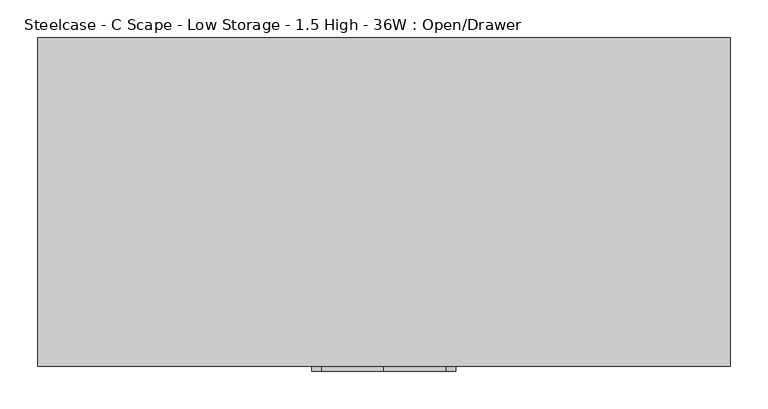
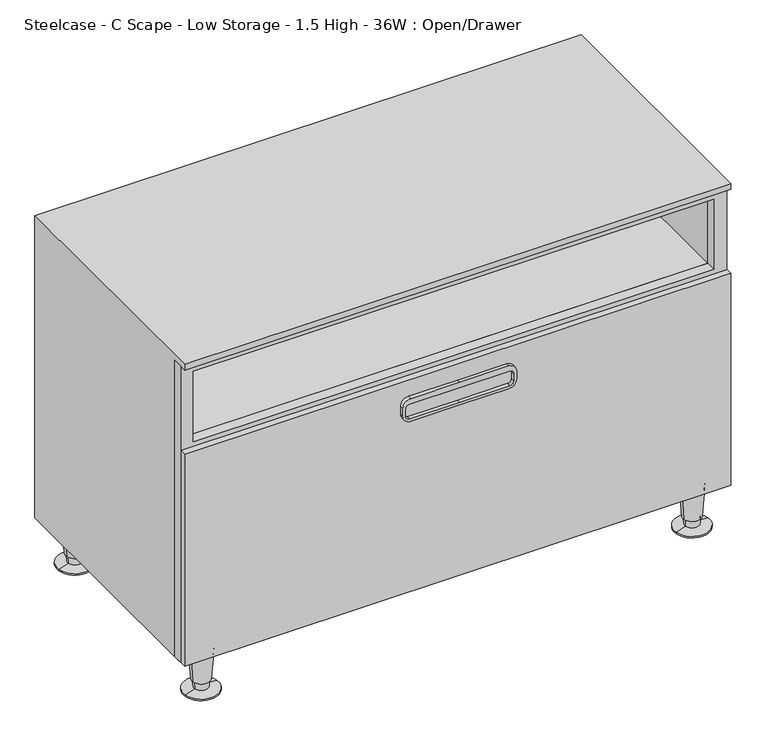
"""IFC4 building model written with IfcOpenShell, lengths in millimetres: furniture geometry, Steelcase - C Scape - Low Storage - 1.5 High - 36W : Open/Drawer."""

from ifc_helpers import new_model, si_unit, point, frame, frame_2d, origin, place, context, project, spatial, polyline, circle_curve, trimmed, segment, composite_curve, outline, extrude, faceted_brep, source, transform, mapped, element, save
from ifc_brep_helpers import plane_surface, cylinder_surface, revolved_surface, advanced_brep


def steelcase_c_scape_low_storage_1_5_high_36w_open_drawer_2eba1b3b(model_context):
    return source(origin(), model_context, "Body", "SolidModel", [
        extrude(outline(polyline([(76.2, 0.0), (76.2, 913.13), (599.44, 913.13), (599.44, 0.0), (76.2, 0.0)]), holes=[polyline([(458.7875121, 891.1617285), (458.7875121, 21.3382324), (582.93, 21.3382324), (582.93, 891.1617285), (458.7875121, 891.1617285)]), polyline([(92.7100024, 891.1617285), (92.7100024, 21.3382324), (436.8419, 21.3382324), (436.8419, 891.1617285), (92.7100024, 891.1617285)])]), frame((0.0, -421.6443408, 0.0), z_axis=(0.0, 1.0, 0.0), x_axis=(0.0, 0.0, 1.0)), (0.0, 0.0, 1.0), 17.2762904),
        extrude(outline(composite_curve([segment(trimmed(circle_curve(frame_2d((409.5749879, 374.0147442)), 12.7), [point((422.2749879, 374.0147442))], [point((409.5749879, 361.3147442))], False, "CARTESIAN"), True, "CONTINUOUS"), segment(polyline([(409.5749879, 361.3147442), (394.970017, 361.3147442)]), True, "CONTINUOUS"), segment(trimmed(circle_curve(frame_2d((394.970017, 374.0147442)), 12.7), [point((394.970017, 361.3147442))], [point((382.270017, 374.0147442))], False, "CARTESIAN"), True, "CONTINUOUS"), segment(polyline([(382.270017, 374.0147442), (382.270017, 456.2475), (382.270017, 538.4802558)]), True, "CONTINUOUS"), segment(trimmed(circle_curve(frame_2d((394.970017, 538.4802558)), 12.7), [point((382.270017, 538.4802558))], [point((394.970017, 551.1802558))], False, "CARTESIAN"), True, "CONTINUOUS"), segment(polyline([(394.970017, 551.1802558), (409.5749879, 551.1802558)]), True, "CONTINUOUS"), segment(trimmed(circle_curve(frame_2d((409.5749879, 538.4802558)), 12.7), [point((409.5749879, 551.1802558))], [point((422.2749879, 538.4802558))], False, "CARTESIAN"), True, "CONTINUOUS"), segment(polyline([(422.2749879, 538.4802558), (422.2749879, 456.2475), (422.2749879, 374.0147442)]), True, "CONTINUOUS")], self_intersect=False), holes=[composite_curve([segment(trimmed(circle_curve(frame_2d((406.1460063, 372.4923565)), 6.35), [point((406.1460063, 366.1423565))], [point((412.4960063, 372.4923565))], True, "CARTESIAN"), True, "CONTINUOUS"), segment(polyline([(412.4960063, 372.4923565), (412.4960063, 456.2475), (412.4960063, 540.0026435)]), True, "CONTINUOUS"), segment(trimmed(circle_curve(frame_2d((406.1460063, 540.0026435)), 6.35), [point((412.4960063, 540.0026435))], [point((406.1460063, 546.3526435))], True, "CARTESIAN"), True, "CONTINUOUS"), segment(polyline([(406.1460063, 546.3526435), (393.4459942, 546.3526435)]), True, "CONTINUOUS"), segment(trimmed(circle_curve(frame_2d((393.4459942, 540.0026435)), 6.35), [point((393.4459942, 546.3526435))], [point((387.0959942, 540.0026435))], True, "CARTESIAN"), True, "CONTINUOUS"), segment(polyline([(387.0959942, 540.0026435), (387.0959942, 456.2475), (387.0959942, 372.4923565)]), True, "CONTINUOUS"), segment(trimmed(circle_curve(frame_2d((393.4459942, 372.4923565)), 6.35), [point((387.0959942, 372.4923565))], [point((393.4459942, 366.1423565))], True, "CARTESIAN"), True, "CONTINUOUS"), segment(polyline([(393.4459942, 366.1423565), (406.1460063, 366.1423565)]), True, "CONTINUOUS")], self_intersect=False)]), frame((0.0, -439.42, 0.0), z_axis=(0.0, 1.0, 0.0), x_axis=(0.0, 0.0, 1.0)), (0.0, 0.0, 1.0), 6.35),
        advanced_brep(
        [(885.8598695, -31.5218435, 76.2), (848.1981305, -37.2840847, 76.2), (867.029, -34.4029641, 76.2), (881.9095214, -32.1262463, 19.05), (852.1484786, -36.6796819, 19.05), (879.4799345, -32.4979728, 19.05), (854.5780655, -36.3079555, 19.05), (878.791165, -32.6033544, 5.7545598), (855.266835, -36.2025738, 5.7545598), (896.1400485, -29.9489775, 2.5119506), (837.9179515, -38.8569507, 2.5119506), (896.1400485, -29.9489775, 0.0), (837.9179515, -38.8569507, 0.0), (867.029, -34.4029641, 0.0)],
        [
            (0, 1, circle_curve(frame((867.029, -34.4029641, 76.2), z_axis=(0.0, 0.0, 1.0), x_axis=(0.0, -1.0, 0.0)), 19.05)),
            (1, 2),
            (2, 0),
            (1, 0, circle_curve(frame((867.029, -34.4029641, 76.2), z_axis=(0.0, 0.0, 1.0), x_axis=(0.0, -1.0, 0.0)), 19.05)),
            (3, 4, circle_curve(frame((867.029, -34.4029641, 19.05), z_axis=(0.0, 0.0, 1.0), x_axis=(0.0, -1.0, 0.0)), 15.0536827)),
            (4, 1),
            (0, 3),
            (4, 3, circle_curve(frame((867.029, -34.4029641, 19.05), z_axis=(0.0, 0.0, 1.0), x_axis=(0.0, -1.0, 0.0)), 15.0536827)),
            (5, 6, circle_curve(frame((867.029, -34.4029641, 19.05), z_axis=(0.0, 0.0, 1.0), x_axis=(0.0, -1.0, 0.0)), 12.5958232)),
            (6, 4),
            (3, 5),
            (6, 5, circle_curve(frame((867.029, -34.4029641, 19.05), z_axis=(0.0, 0.0, 1.0), x_axis=(0.0, -1.0, 0.0)), 12.5958232)),
            (7, 8, circle_curve(frame((867.029, -34.4029641, 5.7545598), z_axis=(0.0, 0.0, 1.0), x_axis=(0.0, -1.0, 0.0)), 11.8990387)),
            (8, 6),
            (5, 7),
            (8, 7, circle_curve(frame((867.029, -34.4029641, 5.7545598), z_axis=(0.0, 0.0, 1.0), x_axis=(0.0, -1.0, 0.0)), 11.8990387)),
            (9, 10, circle_curve(frame((867.029, -34.4029641, 2.5119506), z_axis=(0.0, 0.0, 1.0), x_axis=(0.0, -1.0, 0.0)), 29.4498071)),
            (10, 8),
            (7, 9),
            (10, 9, circle_curve(frame((867.029, -34.4029641, 2.5119506), z_axis=(0.0, 0.0, 1.0), x_axis=(0.0, -1.0, 0.0)), 29.4498071)),
            (11, 12, circle_curve(frame((867.029, -34.4029641, 0.0), z_axis=(0.0, 0.0, 1.0), x_axis=(0.0, -1.0, 0.0)), 29.4498071)),
            (12, 10),
            (9, 11),
            (12, 11, circle_curve(frame((867.029, -34.4029641, 0.0), z_axis=(0.0, 0.0, 1.0), x_axis=(0.0, -1.0, 0.0)), 29.4498071)),
            (13, 12),
            (11, 13),
        ],
        [
            plane_surface(frame((867.029, -34.4029641, 76.2), z_axis=(0.0, 0.0, 1.0), x_axis=(0.0, -1.0, 0.0))),
            revolved_surface(polyline([(867.029, -53.4529641, 76.2), (867.029, -49.4566468, 19.05)]), (867.029, -34.4029641, 25.4), (0.0, 0.0, -1.0)),
            plane_surface(frame((867.029, -34.4029641, 19.05), z_axis=(0.0, 0.0, -1.0), x_axis=(0.0, -1.0, 0.0))),
            revolved_surface(polyline([(867.029, -46.9987873, 19.05), (867.029, -46.3020028, 5.7545598)]), (867.029, -34.4029641, 25.4), (0.0, 0.0, -1.0)),
            revolved_surface(polyline([(867.029, -46.3020028, 5.7545598), (867.029, -63.8527712, 2.5119506)]), (867.029, -34.4029641, 25.4), (0.0, 0.0, -1.0)),
            cylinder_surface(frame((867.029, -34.4029641, 25.4), z_axis=(0.0, 0.0, -1.0), x_axis=(0.0, -1.0, 0.0)), 29.4498071),
            plane_surface(frame((867.029, -34.4029641, 0.0), z_axis=(0.0, 0.0, -1.0), x_axis=(0.0, -1.0, 0.0))),
        ],
        [
            (0, [[1, 2, 3]]),
            (0, [[4, -3, -2]]),
            (1, [[5, 6, -1, 7]]),
            (1, [[8, -7, -4, -6]]),
            (2, [[9, 10, -5, 11]]),
            (2, [[12, -11, -8, -10]]),
            (3, [[13, 14, -9, 15]]),
            (3, [[16, -15, -12, -14]]),
            (4, [[17, 18, -13, 19]]),
            (4, [[20, -19, -16, -18]]),
            (5, [[21, 22, -17, 23]]),
            (5, [[24, -23, -20, -22]]),
            (6, [[25, -21, 26]]),
            (6, [[-26, -24, -25]]),
        ],
    ),
        advanced_brep(
        [(885.8598695, -397.1702762, 76.2), (848.1981305, -402.9325174, 76.2), (867.029, -400.0513968, 76.2), (881.9095214, -397.774679, 19.05), (852.1484786, -402.3281146, 19.05), (879.4799345, -398.1464055, 19.05), (854.5780655, -401.9563882, 19.05), (878.791165, -398.2517871, 5.7545598), (855.266835, -401.8510065, 5.7545598), (896.1400485, -395.5974102, 2.5119506), (837.9179515, -404.5053834, 2.5119506), (896.1400485, -395.5974102, 0.0), (837.9179515, -404.5053834, 0.0), (867.029, -400.0513968, 0.0)],
        [
            (0, 1, circle_curve(frame((867.029, -400.0513968, 76.2), z_axis=(0.0, 0.0, 1.0), x_axis=(0.0, -1.0, 0.0)), 19.05)),
            (1, 2),
            (2, 0),
            (1, 0, circle_curve(frame((867.029, -400.0513968, 76.2), z_axis=(0.0, 0.0, 1.0), x_axis=(0.0, -1.0, 0.0)), 19.05)),
            (3, 4, circle_curve(frame((867.029, -400.0513968, 19.05), z_axis=(0.0, 0.0, 1.0), x_axis=(0.0, -1.0, 0.0)), 15.0536827)),
            (4, 1),
            (0, 3),
            (4, 3, circle_curve(frame((867.029, -400.0513968, 19.05), z_axis=(0.0, 0.0, 1.0), x_axis=(0.0, -1.0, 0.0)), 15.0536827)),
            (5, 6, circle_curve(frame((867.029, -400.0513968, 19.05), z_axis=(0.0, 0.0, 1.0), x_axis=(0.0, -1.0, 0.0)), 12.5958232)),
            (6, 4),
            (3, 5),
            (6, 5, circle_curve(frame((867.029, -400.0513968, 19.05), z_axis=(0.0, 0.0, 1.0), x_axis=(0.0, -1.0, 0.0)), 12.5958232)),
            (7, 8, circle_curve(frame((867.029, -400.0513968, 5.7545598), z_axis=(0.0, 0.0, 1.0), x_axis=(0.0, -1.0, 0.0)), 11.8990387)),
            (8, 6),
            (5, 7),
            (8, 7, circle_curve(frame((867.029, -400.0513968, 5.7545598), z_axis=(0.0, 0.0, 1.0), x_axis=(0.0, -1.0, 0.0)), 11.8990387)),
            (9, 10, circle_curve(frame((867.029, -400.0513968, 2.5119506), z_axis=(0.0, 0.0, 1.0), x_axis=(0.0, -1.0, 0.0)), 29.4498071)),
            (10, 8),
            (7, 9),
            (10, 9, circle_curve(frame((867.029, -400.0513968, 2.5119506), z_axis=(0.0, 0.0, 1.0), x_axis=(0.0, -1.0, 0.0)), 29.4498071)),
            (11, 12, circle_curve(frame((867.029, -400.0513968, 0.0), z_axis=(0.0, 0.0, 1.0), x_axis=(0.0, -1.0, 0.0)), 29.4498071)),
            (12, 10),
            (9, 11),
            (12, 11, circle_curve(frame((867.029, -400.0513968, 0.0), z_axis=(0.0, 0.0, 1.0), x_axis=(0.0, -1.0, 0.0)), 29.4498071)),
            (13, 12),
            (11, 13),
        ],
        [
            plane_surface(frame((867.029, -400.0513968, 76.2), z_axis=(0.0, 0.0, 1.0), x_axis=(0.0, -1.0, 0.0))),
            revolved_surface(polyline([(867.029, -419.1013968, 76.2), (867.029, -415.1050795, 19.05)]), (867.029, -400.0513968, 25.4), (0.0, 0.0, -1.0)),
            plane_surface(frame((867.029, -400.0513968, 19.05), z_axis=(0.0, 0.0, -1.0), x_axis=(0.0, -1.0, 0.0))),
            revolved_surface(polyline([(867.029, -412.64722, 19.05), (867.029, -411.9504355, 5.7545598)]), (867.029, -400.0513968, 25.4), (0.0, 0.0, -1.0)),
            revolved_surface(polyline([(867.029, -411.9504355, 5.7545598), (867.029, -429.5012039, 2.5119506)]), (867.029, -400.0513968, 25.4), (0.0, 0.0, -1.0)),
            cylinder_surface(frame((867.029, -400.0513968, 25.4), z_axis=(0.0, 0.0, -1.0), x_axis=(0.0, -1.0, 0.0)), 29.4498071),
            plane_surface(frame((867.029, -400.0513968, 0.0), z_axis=(0.0, 0.0, -1.0), x_axis=(0.0, -1.0, 0.0))),
        ],
        [
            (0, [[1, 2, 3]]),
            (0, [[4, -3, -2]]),
            (1, [[5, 6, -1, 7]]),
            (1, [[8, -7, -4, -6]]),
            (2, [[9, 10, -5, 11]]),
            (2, [[12, -11, -8, -10]]),
            (3, [[13, 14, -9, 15]]),
            (3, [[16, -15, -12, -14]]),
            (4, [[17, 18, -13, 19]]),
            (4, [[20, -19, -16, -18]]),
            (5, [[21, 22, -17, 23]]),
            (5, [[24, -23, -20, -22]]),
            (6, [[25, -21, 26]]),
            (6, [[-26, -24, -25]]),
        ],
    ),
        advanced_brep(
        [(65.5422821, -397.1702762, 76.2), (27.8805432, -402.9325174, 76.2), (46.7114126, -400.0513968, 76.2), (61.5919341, -397.774679, 19.05), (31.8308912, -402.3281146, 19.05), (59.1623471, -398.1464055, 19.05), (34.2604781, -401.9563882, 19.05), (58.4735776, -398.2517871, 5.7545598), (34.9492476, -401.8510065, 5.7545598), (75.8224611, -395.5974102, 2.5119506), (17.6003641, -404.5053834, 2.5119506), (75.8224611, -395.5974102, 0.0), (17.6003641, -404.5053834, 0.0), (46.7114126, -400.0513968, 0.0)],
        [
            (0, 1, circle_curve(frame((46.7114126, -400.0513968, 76.2), z_axis=(0.0, 0.0, 1.0), x_axis=(0.0, -1.0, 0.0)), 19.05)),
            (1, 2),
            (2, 0),
            (1, 0, circle_curve(frame((46.7114126, -400.0513968, 76.2), z_axis=(0.0, 0.0, 1.0), x_axis=(0.0, -1.0, 0.0)), 19.05)),
            (3, 4, circle_curve(frame((46.7114126, -400.0513968, 19.05), z_axis=(0.0, 0.0, 1.0), x_axis=(0.0, -1.0, 0.0)), 15.0536827)),
            (4, 1),
            (0, 3),
            (4, 3, circle_curve(frame((46.7114126, -400.0513968, 19.05), z_axis=(0.0, 0.0, 1.0), x_axis=(0.0, -1.0, 0.0)), 15.0536827)),
            (5, 6, circle_curve(frame((46.7114126, -400.0513968, 19.05), z_axis=(0.0, 0.0, 1.0), x_axis=(0.0, -1.0, 0.0)), 12.5958232)),
            (6, 4),
            (3, 5),
            (6, 5, circle_curve(frame((46.7114126, -400.0513968, 19.05), z_axis=(0.0, 0.0, 1.0), x_axis=(0.0, -1.0, 0.0)), 12.5958232)),
            (7, 8, circle_curve(frame((46.7114126, -400.0513968, 5.7545598), z_axis=(0.0, 0.0, 1.0), x_axis=(0.0, -1.0, 0.0)), 11.8990387)),
            (8, 6),
            (5, 7),
            (8, 7, circle_curve(frame((46.7114126, -400.0513968, 5.7545598), z_axis=(0.0, 0.0, 1.0), x_axis=(0.0, -1.0, 0.0)), 11.8990387)),
            (9, 10, circle_curve(frame((46.7114126, -400.0513968, 2.5119506), z_axis=(0.0, 0.0, 1.0), x_axis=(0.0, -1.0, 0.0)), 29.4498071)),
            (10, 8),
            (7, 9),
            (10, 9, circle_curve(frame((46.7114126, -400.0513968, 2.5119506), z_axis=(0.0, 0.0, 1.0), x_axis=(0.0, -1.0, 0.0)), 29.4498071)),
            (11, 12, circle_curve(frame((46.7114126, -400.0513968, 0.0), z_axis=(0.0, 0.0, 1.0), x_axis=(0.0, -1.0, 0.0)), 29.4498071)),
            (12, 10),
            (9, 11),
            (12, 11, circle_curve(frame((46.7114126, -400.0513968, 0.0), z_axis=(0.0, 0.0, 1.0), x_axis=(0.0, -1.0, 0.0)), 29.4498071)),
            (13, 12),
            (11, 13),
        ],
        [
            plane_surface(frame((46.7114126, -400.0513968, 76.2), z_axis=(0.0, 0.0, 1.0), x_axis=(0.0, -1.0, 0.0))),
            revolved_surface(polyline([(46.7114126, -419.1013968, 76.2), (46.7114126, -415.1050795, 19.05)]), (46.7114126, -400.0513968, 25.4), (0.0, 0.0, -1.0)),
            plane_surface(frame((46.7114126, -400.0513968, 19.05), z_axis=(0.0, 0.0, -1.0), x_axis=(0.0, -1.0, 0.0))),
            revolved_surface(polyline([(46.7114126, -412.64722, 19.05), (46.7114126, -411.9504355, 5.7545598)]), (46.7114126, -400.0513968, 25.4), (0.0, 0.0, -1.0)),
            revolved_surface(polyline([(46.7114126, -411.9504355, 5.7545598), (46.7114126, -429.5012039, 2.5119506)]), (46.7114126, -400.0513968, 25.4), (0.0, 0.0, -1.0)),
            cylinder_surface(frame((46.7114126, -400.0513968, 25.4), z_axis=(0.0, 0.0, -1.0), x_axis=(0.0, -1.0, 0.0)), 29.4498071),
            plane_surface(frame((46.7114126, -400.0513968, 0.0), z_axis=(0.0, 0.0, -1.0), x_axis=(0.0, -1.0, 0.0))),
        ],
        [
            (0, [[1, 2, 3]]),
            (0, [[4, -3, -2]]),
            (1, [[5, 6, -1, 7]]),
            (1, [[8, -7, -4, -6]]),
            (2, [[9, 10, -5, 11]]),
            (2, [[12, -11, -8, -10]]),
            (3, [[13, 14, -9, 15]]),
            (3, [[16, -15, -12, -14]]),
            (4, [[17, 18, -13, 19]]),
            (4, [[20, -19, -16, -18]]),
            (5, [[21, 22, -17, 23]]),
            (5, [[24, -23, -20, -22]]),
            (6, [[25, -21, 26]]),
            (6, [[-26, -24, -25]]),
        ],
    ),
        advanced_brep(
        [(65.5422821, -31.5218435, 76.2), (27.8805432, -37.2840847, 76.2), (46.7114126, -34.4029641, 76.2), (61.5919341, -32.1262463, 19.05), (31.8308912, -36.6796819, 19.05), (59.1623471, -32.4979728, 19.05), (34.2604781, -36.3079555, 19.05), (58.4735776, -32.6033544, 5.7545598), (34.9492476, -36.2025738, 5.7545598), (75.8224611, -29.9489775, 2.5119506), (17.6003641, -38.8569507, 2.5119506), (75.8224611, -29.9489775, 0.0), (17.6003641, -38.8569507, 0.0), (46.7114126, -34.4029641, 0.0)],
        [
            (0, 1, circle_curve(frame((46.7114126, -34.4029641, 76.2), z_axis=(0.0, 0.0, 1.0), x_axis=(0.0, -1.0, 0.0)), 19.05)),
            (1, 2),
            (2, 0),
            (1, 0, circle_curve(frame((46.7114126, -34.4029641, 76.2), z_axis=(0.0, 0.0, 1.0), x_axis=(0.0, -1.0, 0.0)), 19.05)),
            (3, 4, circle_curve(frame((46.7114126, -34.4029641, 19.05), z_axis=(0.0, 0.0, 1.0), x_axis=(0.0, -1.0, 0.0)), 15.0536827)),
            (4, 1),
            (0, 3),
            (4, 3, circle_curve(frame((46.7114126, -34.4029641, 19.05), z_axis=(0.0, 0.0, 1.0), x_axis=(0.0, -1.0, 0.0)), 15.0536827)),
            (5, 6, circle_curve(frame((46.7114126, -34.4029641, 19.05), z_axis=(0.0, 0.0, 1.0), x_axis=(0.0, -1.0, 0.0)), 12.5958232)),
            (6, 4),
            (3, 5),
            (6, 5, circle_curve(frame((46.7114126, -34.4029641, 19.05), z_axis=(0.0, 0.0, 1.0), x_axis=(0.0, -1.0, 0.0)), 12.5958232)),
            (7, 8, circle_curve(frame((46.7114126, -34.4029641, 5.7545598), z_axis=(0.0, 0.0, 1.0), x_axis=(0.0, -1.0, 0.0)), 11.8990387)),
            (8, 6),
            (5, 7),
            (8, 7, circle_curve(frame((46.7114126, -34.4029641, 5.7545598), z_axis=(0.0, 0.0, 1.0), x_axis=(0.0, -1.0, 0.0)), 11.8990387)),
            (9, 10, circle_curve(frame((46.7114126, -34.4029641, 2.5119506), z_axis=(0.0, 0.0, 1.0), x_axis=(0.0, -1.0, 0.0)), 29.4498071)),
            (10, 8),
            (7, 9),
            (10, 9, circle_curve(frame((46.7114126, -34.4029641, 2.5119506), z_axis=(0.0, 0.0, 1.0), x_axis=(0.0, -1.0, 0.0)), 29.4498071)),
            (11, 12, circle_curve(frame((46.7114126, -34.4029641, 0.0), z_axis=(0.0, 0.0, 1.0), x_axis=(0.0, -1.0, 0.0)), 29.4498071)),
            (12, 10),
            (9, 11),
            (12, 11, circle_curve(frame((46.7114126, -34.4029641, 0.0), z_axis=(0.0, 0.0, 1.0), x_axis=(0.0, -1.0, 0.0)), 29.4498071)),
            (13, 12),
            (11, 13),
        ],
        [
            plane_surface(frame((46.7114126, -34.4029641, 76.2), z_axis=(0.0, 0.0, 1.0), x_axis=(0.0, -1.0, 0.0))),
            revolved_surface(polyline([(46.7114126, -53.4529641, 76.2), (46.7114126, -49.4566468, 19.05)]), (46.7114126, -34.4029641, 25.4), (0.0, 0.0, -1.0)),
            plane_surface(frame((46.7114126, -34.4029641, 19.05), z_axis=(0.0, 0.0, -1.0), x_axis=(0.0, -1.0, 0.0))),
            revolved_surface(polyline([(46.7114126, -46.9987873, 19.05), (46.7114126, -46.3020028, 5.7545598)]), (46.7114126, -34.4029641, 25.4), (0.0, 0.0, -1.0)),
            revolved_surface(polyline([(46.7114126, -46.3020028, 5.7545598), (46.7114126, -63.8527712, 2.5119506)]), (46.7114126, -34.4029641, 25.4), (0.0, 0.0, -1.0)),
            cylinder_surface(frame((46.7114126, -34.4029641, 25.4), z_axis=(0.0, 0.0, -1.0), x_axis=(0.0, -1.0, 0.0)), 29.4498071),
            plane_surface(frame((46.7114126, -34.4029641, 0.0), z_axis=(0.0, 0.0, -1.0), x_axis=(0.0, -1.0, 0.0))),
        ],
        [
            (0, [[1, 2, 3]]),
            (0, [[4, -3, -2]]),
            (1, [[5, 6, -1, 7]]),
            (1, [[8, -7, -4, -6]]),
            (2, [[9, 10, -5, 11]]),
            (2, [[12, -11, -8, -10]]),
            (3, [[13, 14, -9, 15]]),
            (3, [[16, -15, -12, -14]]),
            (4, [[17, 18, -13, 19]]),
            (4, [[20, -19, -16, -18]]),
            (5, [[21, 22, -17, 23]]),
            (5, [[24, -23, -20, -22]]),
            (6, [[25, -21, 26]]),
            (6, [[-26, -24, -25]]),
        ],
    ),
        faceted_brep([(0.0, 0.0, 609.6), (913.13, 0.0, 609.6), (913.13, 0.0, 76.2), (0.0, 0.0, 76.2), (0.0, -433.07, 609.6), (0.0, -404.3680504, 76.2), (0.0, -404.3680504, 599.44), (0.0, -433.07, 599.44), (21.3382324, -404.3680504, 599.44), (913.13, -404.3680504, 76.2), (913.13, -404.3680504, 599.44), (891.1617285, -404.3680504, 599.44), (891.1617285, -404.3680504, 458.7875121), (21.3382324, -404.3680504, 458.7875121), (891.1617285, -404.3680504, 450.8499879), (891.1617285, -404.3680504, 92.7100024), (21.3382324, -404.3680504, 92.7100024), (21.3382324, -404.3680504, 450.8499879), (21.3382324, -9.525, 599.44), (21.3382324, -9.525, 458.7875121), (21.3382324, -9.525, 92.7100024), (21.3382324, -9.525, 450.8499879), (891.1617285, -9.525, 599.44), (891.1617285, -9.525, 458.7875121), (891.1617285, -9.525, 92.7100024), (891.1617285, -9.525, 450.8499879), (913.13, -433.07, 609.6), (913.13, -433.07, 599.44)], [[[0, 1, 2, 3]], [[4, 0, 3, 5, 6, 7]], [[8, 6, 5, 9, 10, 11, 12, 13], [14, 15, 16, 17]], [[18, 8, 13, 19]], [[17, 16, 20, 21]], [[22, 18, 19, 23]], [[21, 20, 24, 25]], [[11, 22, 23, 12]], [[25, 24, 15, 14]], [[2, 1, 26, 27, 10, 9]], [[1, 0, 4, 26]], [[27, 7, 6, 8, 18, 22, 11, 10]], [[26, 4, 7, 27]], [[13, 12, 23, 19]], [[14, 17, 21, 25]], [[16, 15, 24, 20]], [[2, 9, 5, 3]]]),
        extrude(outline(polyline([(913.13, -404.3680504), (913.13, -433.07), (0.0, -433.07), (0.0, -404.3680504), (913.13, -404.3680504)])), frame((0.0, 0.0, 76.2), z_axis=(0.0, 0.0, 1.0), x_axis=(1.0, 0.0, 0.0)), (0.0, 0.0, 1.0), 374.6499879),
    ])


if __name__ == "__main__":
    model = new_model("IFC4")
    model_context = context("Model", 3, world=origin())
    ifc_project = project(units=[si_unit("LENGTHUNIT", "METRE", prefix="MILLI")], contexts=[model_context])
    site = spatial("IfcSite", under=ifc_project)
    building = spatial("IfcBuilding", under=site)
    placement = place(None, origin())
    steelcase_c_scape_low_storage_1_5_high_36w_open_drawer_shape = steelcase_c_scape_low_storage_1_5_high_36w_open_drawer_2eba1b3b(model_context)
    element("IfcFurniture", 1, ObjectType="Steelcase - C Scape - Low Storage - 1.5 High - 36W : Open/Drawer", at=placement, inside=building, context=model_context, shape_type="MappedRepresentation", body=[
        mapped(steelcase_c_scape_low_storage_1_5_high_36w_open_drawer_shape, transform((0.0, 0.0, 0.0), x_axis=(1.0, 0.0, 0.0), y_axis=(0.0, 1.0, 0.0), z_axis=(0.0, 0.0, 1.0))),
    ])
    save(model, "model.ifc")
